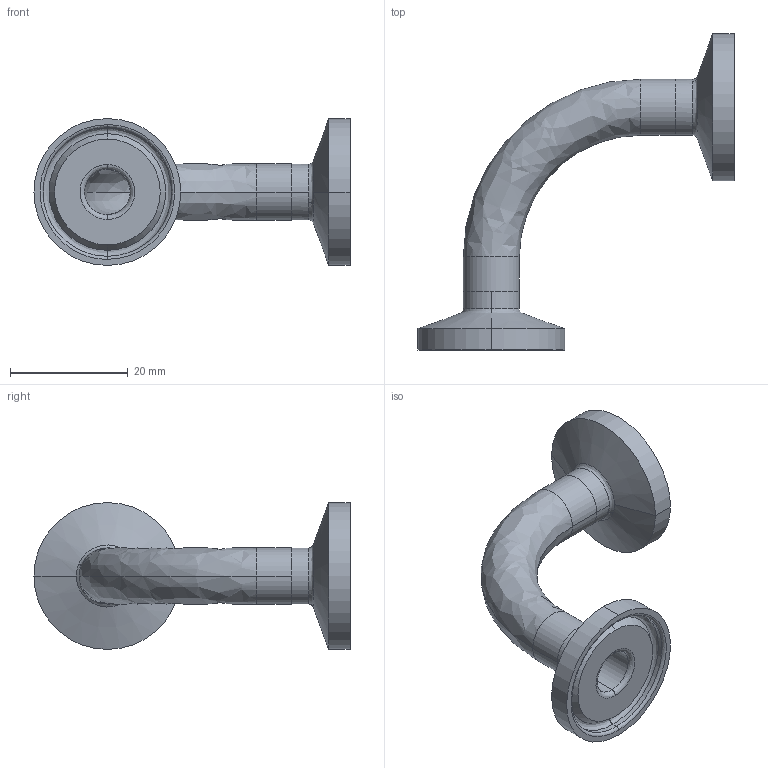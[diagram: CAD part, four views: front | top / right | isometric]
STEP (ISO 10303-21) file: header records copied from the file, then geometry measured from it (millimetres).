
FILE_DESCRIPTION (( 'STEP AP214' ), '1' );
FILE_NAME ('TEG2C6L.375-...STEP', '2016-05-22T10:36:19', ( 'eran' ), ( '' ), 'SwSTEP 2.0', 'SolidWorks 2016', '' );
FILE_SCHEMA (( 'AUTOMOTIVE_DESIGN' ));
Length unit declared in the file: millimetre
Products named in the file (1): TEG2C6L.375-..
Bounding box: 53.8 x 53.8 x 24.99 mm (x, y, z)
Volume: 5010.7 mm3; surface area: 6193.2 mm2
Topology: 3 solids, 3 shells, 60 faces, 132 edges, 80 vertices
Faces by surface type: cylinder 24, bspline 20, plane 8, cone 8
Entity records: 1960 total; most frequent: CARTESIAN_POINT 597, DIRECTION 298, ORIENTED_EDGE 264, AXIS2_PLACEMENT_3D 133, EDGE_CURVE 132, CIRCLE 92, VERTEX_POINT 80, EDGE_LOOP 68
